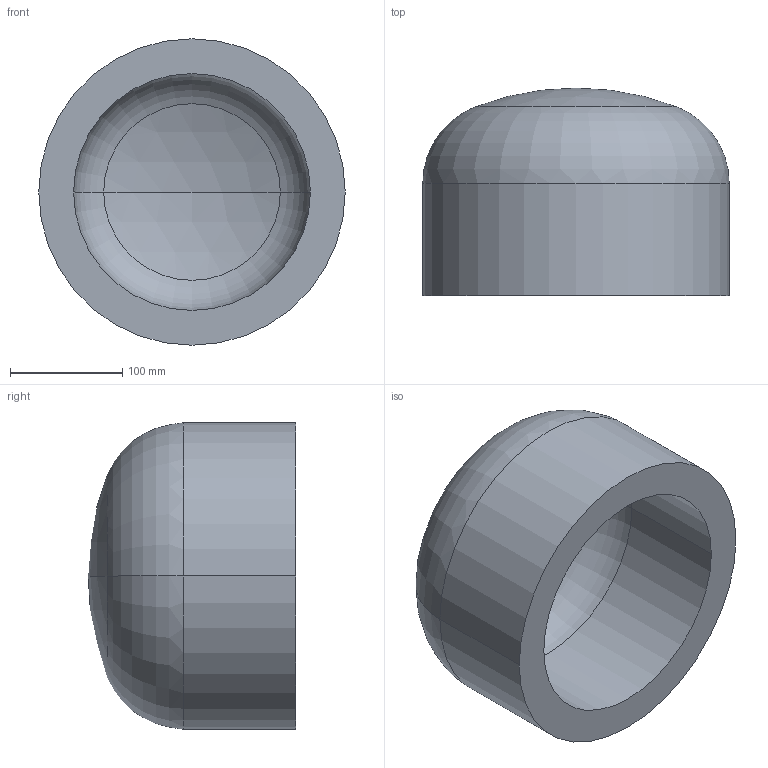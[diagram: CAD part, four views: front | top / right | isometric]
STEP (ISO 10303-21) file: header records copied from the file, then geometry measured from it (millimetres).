
FILE_DESCRIPTION (( 'STEP AP203' ), '1' );
FILE_NAME ('DIN 28013 Korbbogenform_-_Boden DIN 28013 - 273 x 100 - I - s=31.step', '2016-07-01T07:43:52', ( '' ), ( '' ), 'SwSTEP 2.0', 'SolidWorks 2013', '' );
FILE_SCHEMA (( 'CONFIG_CONTROL_DESIGN' ));
Length unit declared in the file: millimetre
Products named in the file (1): DIN 28013 Korbbogenform_-_Boden DIN 28013 - 273 x 100 - I - s=31
Bounding box: 273 x 184.85 x 273 mm (x, y, z)
Volume: 4542942.4 mm3; surface area: 318674 mm2
Topology: 1 solids, 1 shells, 13 faces, 24 edges, 14 vertices
Faces by surface type: torus 4, cylinder 4, sphere 4, plane 1
Entity records: 407 total; most frequent: DIRECTION 72, CARTESIAN_POINT 52, ORIENTED_EDGE 48, AXIS2_PLACEMENT_3D 34, EDGE_CURVE 24, CIRCLE 20, VERTEX_POINT 14, EDGE_LOOP 14
